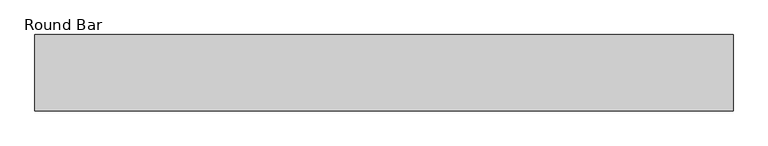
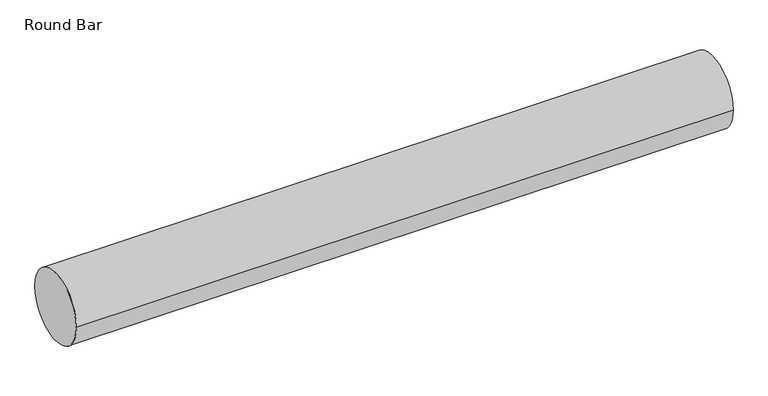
"""IFC4 building model written with IfcOpenShell, lengths in millimetres: beam geometry, Round Bar : Ispuna resetke."""

from ifc_helpers import new_model, si_unit, point, frame, origin, origin_2d, place, context, project, spatial, circle_curve, trimmed, segment, composite_curve, outline, extrude, source, transform, mapped, element, save


def round_bar_ef4423fe(model_context):
    return source(origin(), model_context, "Body", "SweptSolid", [
        extrude(outline(composite_curve([segment(trimmed(circle_curve(origin_2d(), 100.0), [point((-100.0, 0.0))], [point((100.0, 0.0))], False, "CARTESIAN"), True, "CONTINUOUS"), segment(trimmed(circle_curve(origin_2d(), 100.0), [point((100.0, 0.0))], [point((-100.0, 0.0))], False, "CARTESIAN"), True, "CONTINUOUS")], self_intersect=False)), frame((-1000.0, 0.0, 0.0), z_axis=(1.0, 0.0, 0.0), x_axis=(0.0, 1.0, 0.0)), (0.0, 0.0, 1.0), 1828.0),
    ])


if __name__ == "__main__":
    model = new_model("IFC4")
    model_context = context("Model", 3, world=origin())
    ifc_project = project(units=[si_unit("LENGTHUNIT", "METRE", prefix="MILLI")], contexts=[model_context])
    site = spatial("IfcSite", under=ifc_project)
    building = spatial("IfcBuilding", under=site)
    placement = place(None, origin())
    round_bar_shape = round_bar_ef4423fe(model_context)
    element("IfcBeam", 1, ObjectType="Round Bar : Ispuna resetke", at=placement, inside=building, context=model_context, shape_type="MappedRepresentation", body=[
        mapped(round_bar_shape, transform((0.0, 0.0, 0.0), x_axis=(1.0, 0.0, 0.0), y_axis=(0.0, 1.0, 0.0), z_axis=(0.0, 0.0, 1.0))),
    ])
    save(model, "model.ifc")
